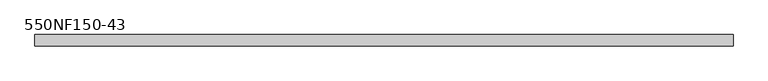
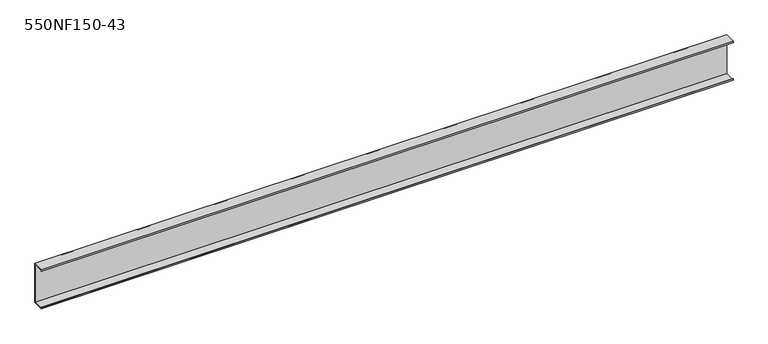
"""IFC4 building model written with IfcOpenShell, lengths in millimetres: beam geometry, BIMSF-SSMA-S : 550NF150-43."""

from ifc_helpers import new_model, si_unit, frame, origin, place, context, project, spatial, polyline, outline, extrude, source, transform, mapped, element, save


def beam_550nf150_43_7de187ee(model_context):
    return source(origin(), model_context, "Body", "SweptSolid", [
        extrude(outline(polyline([(19.05, 69.85), (19.05, -69.85), (-19.05, -69.85), (-19.05, -65.0748), (-17.9003158, -65.0748), (-17.9003158, -68.7003158), (17.9003158, -68.7003158), (17.9003158, 68.7003158), (-17.9003158, 68.7003158), (-17.9003158, 65.0748), (-19.05, 65.0748), (-19.05, 69.85), (19.05, 69.85)])), frame((-1173.1625, 0.0, 0.0), z_axis=(1.0, 0.0, 0.0), x_axis=(0.0, 1.0, 0.0)), (0.0, 0.0, 1.0), 2346.325),
    ])


if __name__ == "__main__":
    model = new_model("IFC4")
    model_context = context("Model", 3, world=origin())
    ifc_project = project(units=[si_unit("LENGTHUNIT", "METRE", prefix="MILLI")], contexts=[model_context])
    site = spatial("IfcSite", under=ifc_project)
    building = spatial("IfcBuilding", under=site)
    placement = place(None, origin())
    beam_550nf150_43_shape = beam_550nf150_43_7de187ee(model_context)
    element("IfcBeam", 1, ObjectType="BIMSF-SSMA-S : 550NF150-43", at=placement, inside=building, context=model_context, shape_type="MappedRepresentation", body=[
        mapped(beam_550nf150_43_shape, transform((0.0, 0.0, 0.0), x_axis=(1.0, 0.0, 0.0), y_axis=(0.0, 1.0, 0.0), z_axis=(0.0, 0.0, 1.0))),
    ])
    save(model, "model.ifc")
